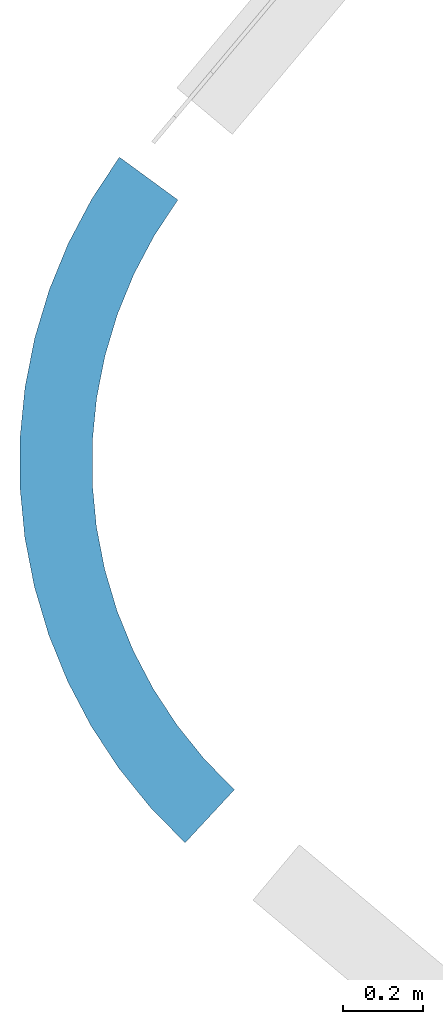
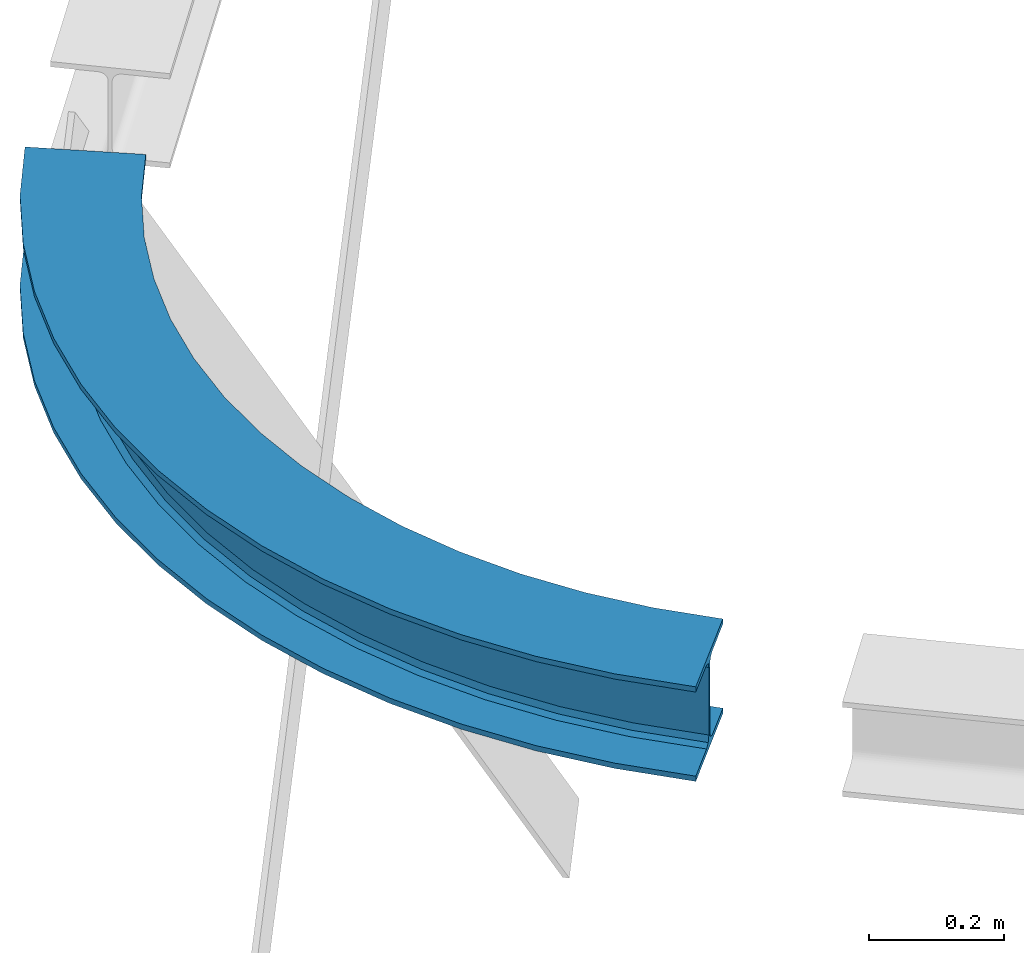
# One storey, part 11 of 11: 1 beam.
"""IFC2X3 building model written with IfcOpenShell, lengths in millimetres."""

from ifc_helpers import new_model, entity, si_unit, converted_unit, derived_unit, direction, frame, origin, place, context, subcontext, project, spatial, faceted_brep, material, type_object, element, save


model = new_model("IFC2X3")

# Units and contexts
model_context = context("Model", 3, precision=0.01, world=origin(), true_north=direction((6.123031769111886e-17, 1.0)))
body_context = subcontext(model_context, "Body", "Model", "MODEL_VIEW")
ifc_project = project(units=[si_unit("LENGTHUNIT", "METRE", prefix="MILLI"), si_unit("AREAUNIT", "SQUARE_METRE"), si_unit("VOLUMEUNIT", "CUBIC_METRE"), derived_unit("MASSDENSITYUNIT", [(si_unit("MASSUNIT", "GRAM", prefix="KILO"), 1), (si_unit("LENGTHUNIT", "METRE"), -3)]), si_unit("MASSUNIT", "GRAM", prefix="KILO"), converted_unit("PLANEANGLEUNIT", "DEGREE", entity("IfcPlaneAngleMeasure", 0.017453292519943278), si_unit("PLANEANGLEUNIT", "RADIAN"), dimensions=[0, 0, 0, 0, 0, 0, 0])], contexts=[model_context])

# Site, building, storey
site_placement = place(None, origin())
site = spatial("IfcSite", under=ifc_project, at=site_placement, Name="Default", CompositionType="ELEMENT")
building_placement = place(site_placement, origin())
building = spatial("IfcBuilding", under=site, at=building_placement, Name="AT constructie", CompositionType="ELEMENT")
storey_placement = place(building_placement, frame((0.0, 0.0, 7728.0)))
storey = spatial("IfcBuildingStorey", under=building, at=storey_placement, Name="02 tweede verdieping", CompositionType="ELEMENT", Elevation=7728.0)

# Beam
ifc_material = material(Name="h2_staal_S355")
beam_type = type_object("IfcBeamType", Name="balk HE_gen_HEA180", PredefinedType="NOTDEFINED")
beam_placement = place(storey_placement, frame((7904.880836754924, 36284.616264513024, 0.0)))
element("IfcBeam", 1, at=beam_placement, inside=storey, type_object=beam_type, material=ifc_material, Name="NLRS_28_SF_LIB_balk HEA_gen_AT:balk HE_gen_HEA180", ObjectType="NLRS_28_SF_LIB_balk HEA_gen_AT:balk HE_gen_HEA180", context=body_context, shape_type="Brep", body=[
    faceted_brep([(-1108.1739774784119, 656.2401463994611, 0.0), (-953.2935853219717, 564.522840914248, 0.0), (-894.1763623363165, 654.1432035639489, 0.0), (-1039.4520547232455, 760.4210149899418, 0.0), (-953.2935853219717, 564.522840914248, -9.500000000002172), (-894.1763623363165, 654.1432035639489, -9.500000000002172), (-1015.2457421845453, 601.209763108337, -9.499999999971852), (-952.2866392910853, 696.6543281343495, -9.499999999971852), (-1024.3721568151, 606.6142571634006, -13.893398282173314), (-960.8470915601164, 702.9168082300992, -13.893398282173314), (-1028.1524415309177, 608.852871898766, -24.50000000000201), (-964.3929469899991, 705.5108124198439, -24.50000000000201), (-1028.1524415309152, 608.8528718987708, -146.49999999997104), (-964.392946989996, 705.5108124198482, -146.49999999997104), (-1024.3721568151, 606.6142571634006, -157.1066017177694), (-960.8470915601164, 702.9168082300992, -157.1066017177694), (-1015.2457421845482, 601.2097631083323, -161.50000000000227), (-952.2866392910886, 696.6543281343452, -161.50000000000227), (-953.2935853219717, 564.522840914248, -161.50000000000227), (-894.1763623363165, 654.1432035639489, -161.50000000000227), (-953.2935853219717, 564.522840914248, -171.0), (-894.1763623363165, 654.1432035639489, -171.0), (-1108.1739774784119, 656.2401463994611, -171.0), (-1039.4520547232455, 760.4210149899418, -171.0), (-1108.1739774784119, 656.2401463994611, -161.50000000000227), (-1039.4520547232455, 760.4210149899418, -161.50000000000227), (-1046.2218206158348, 619.5532242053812, -161.49999999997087), (-981.3417777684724, 717.9098904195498, -161.49999999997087), (-1037.0954059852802, 614.1487301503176, -157.1066017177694), (-972.7813254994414, 711.6474103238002, -157.1066017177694), (-1033.3151212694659, 611.910115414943, -146.50000000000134), (-969.2354700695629, 709.0534061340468, -146.50000000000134), (-1033.315121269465, 611.9101154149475, -24.49999999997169), (-969.2354700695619, 709.0534061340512, -24.49999999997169), (-1037.0954059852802, 614.1487301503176, -13.893398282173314), (-972.7813254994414, 711.6474103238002, -13.893398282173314), (-1046.2218206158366, 619.5532242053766, -9.500000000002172), (-981.3417777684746, 717.9098904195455, -9.500000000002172), (-1108.1739774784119, 656.2401463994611, -9.500000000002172), (-1039.4520547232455, 760.4210149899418, -9.500000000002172), (-1166.4893739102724, 545.8967252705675, 0.0), (-1003.4587168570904, 469.60121517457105, 0.0), (-1003.4587168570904, 469.60121517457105, -9.500000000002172), (-1068.6709796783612, 500.1194192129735, -9.499999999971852), (-1078.2776532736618, 504.61517525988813, -13.893398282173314), (-1082.2568677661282, 506.47737838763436, -24.50000000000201), (-1082.2568677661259, 506.4773783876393, -146.49999999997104), (-1078.2776532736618, 504.61517525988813, -157.1066017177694), (-1068.6709796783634, 500.1194192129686, -161.50000000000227), (-1003.4587168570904, 469.60121517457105, -161.50000000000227), (-1003.4587168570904, 469.60121517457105, -171.0), (-1166.4893739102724, 545.8967252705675, -171.0), (-1166.4893739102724, 545.8967252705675, -161.50000000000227), (-1101.277111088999, 515.3785212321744, -161.49999999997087), (-1091.6704374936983, 510.88276518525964, -157.1066017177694), (-1087.6912230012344, 509.0205620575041, -146.50000000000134), (-1087.6912230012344, 509.0205620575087, -24.49999999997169), (-1091.6704374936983, 510.88276518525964, -13.893398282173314), (-1101.2771110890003, 515.3785212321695, -9.500000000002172), (-1166.4893739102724, 545.8967252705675, -9.500000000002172), (-1213.850621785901, 430.42695326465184, 0.0), (-1044.200671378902, 370.2697065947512, 0.0), (-1044.200671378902, 370.2697065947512, -9.500000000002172), (-1112.0606515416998, 394.33260526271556, -9.499999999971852), (-1122.0573707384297, 397.87740501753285, -13.893398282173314), (-1126.1981474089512, 399.34570915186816, -24.50000000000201), (-1126.1981474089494, 399.34570915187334, -146.49999999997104), (-1122.0573707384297, 397.87740501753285, -157.1066017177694), (-1112.0606515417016, 394.33260526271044, -161.50000000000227), (-1044.200671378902, 370.2697065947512, -161.50000000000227), (-1044.200671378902, 370.2697065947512, -171.0), (-1213.850621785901, 430.42695326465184, -171.0), (-1213.850621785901, 430.42695326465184, -161.50000000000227), (-1145.9906416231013, 406.36405459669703, -161.49999999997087), (-1135.9939224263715, 402.8192548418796, -157.1066017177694), (-1131.8531457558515, 401.35095070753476, -146.50000000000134), (-1131.853145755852, 401.3509507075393, -24.49999999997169), (-1135.9939224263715, 402.8192548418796, -13.893398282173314), (-1145.9906416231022, 406.36405459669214, -9.500000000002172), (-1213.850621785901, 430.42695326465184, -9.500000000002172), (-1249.8129659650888, 310.9151720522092, 0.0), (-1075.1368535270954, 267.4611072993, 0.0), (-1075.1368535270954, 267.4611072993, -9.500000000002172), (-1145.0072985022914, 284.84273320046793, -9.499999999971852), (-1155.300187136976, 287.4032885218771, -13.893398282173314), (-1159.5636412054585, 288.4639052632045, -24.50000000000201), (-1159.563641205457, 288.4639052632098, -146.49999999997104), (-1155.300187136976, 287.4032885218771, -157.1066017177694), (-1145.0072985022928, 284.8427332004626, -161.50000000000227), (-1075.1368535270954, 267.4611072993, -161.50000000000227), (-1075.1368535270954, 267.4611072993, -171.0), (-1249.8129659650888, 310.9151720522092, -171.0), (-1249.8129659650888, 310.9151720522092, -161.50000000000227), (-1179.942520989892, 293.5335461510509, -161.49999999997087), (-1169.6496323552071, 290.9729908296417, -157.1066017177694), (-1165.3861782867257, 289.9123740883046, -146.50000000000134), (-1165.3861782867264, 289.91237408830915, -24.49999999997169), (-1169.6496323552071, 290.9729908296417, -13.893398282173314), (-1179.9425209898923, 293.533546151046, -9.500000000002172), (-1249.8129659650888, 310.9151720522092, -9.500000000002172), (-1274.0386949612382, 188.4836805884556, 0.0), (-1095.9767509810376, 162.14086171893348, 0.0), (-1095.9767509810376, 162.14086171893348, -9.500000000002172), (-1167.201528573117, 172.67798926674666, -9.499999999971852), (-1177.693929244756, 174.2302547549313, -13.893398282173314), (-1182.0400239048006, 174.87322417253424, -24.50000000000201), (-1182.0400239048, 174.87322417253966, -146.49999999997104), (-1177.693929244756, 174.2302547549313, -157.1066017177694), (-1167.201528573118, 172.67798926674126, -161.50000000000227), (-1095.9767509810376, 162.14086171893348, -161.50000000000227), (-1095.9767509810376, 162.14086171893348, -171.0), (-1274.0386949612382, 188.4836805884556, -171.0), (-1274.0386949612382, 188.4836805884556, -161.50000000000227), (-1202.8139173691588, 177.9465530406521, -161.49999999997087), (-1192.32151669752, 176.39428755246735, -157.1066017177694), (-1187.975422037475, 175.75131813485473, -146.50000000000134), (-1187.9754220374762, 175.75131813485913, -24.49999999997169), (-1192.32151669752, 176.39428755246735, -13.893398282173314), (-1202.813917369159, 177.94655304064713, -9.500000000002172), (-1274.0386949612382, 188.4836805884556, -9.500000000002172), (-1286.3003122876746, 64.28219594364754, 0.0), (-1106.5246625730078, 55.298000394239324, 0.0), (-1106.5246625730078, 55.298000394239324, -9.500000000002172), (-1178.434922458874, 58.891678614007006, -9.499999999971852), (-1189.0283042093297, 59.42107741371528, -13.893398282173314), (-1193.416226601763, 59.64036157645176, -24.50000000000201), (-1193.4162266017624, 59.640361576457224, -146.49999999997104), (-1189.0283042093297, 59.42107741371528, -157.1066017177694), (-1178.4349224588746, 58.891678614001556, -161.50000000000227), (-1106.5246625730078, 55.298000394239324, -161.50000000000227), (-1106.5246625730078, 55.298000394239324, -171.0), (-1286.3003122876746, 64.28219594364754, -171.0), (-1286.3003122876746, 64.28219594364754, -161.50000000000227), (-1214.3900524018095, 60.688517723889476, -161.49999999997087), (-1203.796670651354, 60.15911892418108, -157.1066017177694), (-1199.4087482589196, 59.93983476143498, -146.50000000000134), (-1199.4087482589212, 59.939834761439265, -24.49999999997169), (-1203.796670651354, 60.15911892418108, -13.893398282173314), (-1214.3900524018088, 60.68851772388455, -9.500000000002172), (-1286.3003122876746, 64.28219594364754, -9.500000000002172), (-1286.4826728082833, -60.522943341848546, 0.0), (-1106.68153605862, -52.064147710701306, 0.0), (-1106.68153605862, -52.064147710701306, -9.500000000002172), (-1178.6019907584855, -55.44766596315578, -9.499999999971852), (-1189.196874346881, -55.946105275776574, -13.893398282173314), (-1193.5854188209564, -56.15256559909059, -24.50000000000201), (-1193.5854188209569, -56.152565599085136, -146.49999999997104), (-1189.196874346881, -55.946105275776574, -157.1066017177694), (-1178.601990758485, -55.44766596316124, -161.50000000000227), (-1106.68153605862, -52.064147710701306, -161.50000000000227), (-1106.68153605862, -52.064147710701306, -171.0), (-1286.4826728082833, -60.522943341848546, -171.0), (-1286.4826728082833, -60.522943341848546, -161.50000000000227), (-1214.5622181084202, -57.1394250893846, -161.49999999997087), (-1203.9673345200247, -56.64098577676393, -157.1066017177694), (-1199.5787900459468, -56.434525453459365, -146.50000000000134), (-1199.5787900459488, -56.43452545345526, -24.49999999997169), (-1203.9673345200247, -56.64098577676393, -13.893398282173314), (-1214.562218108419, -57.13942508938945, -9.500000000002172), (-1286.4826728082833, -60.522943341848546, -9.500000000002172), (-1274.5840640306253, -184.75972998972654, 0.0), (-1096.4458982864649, -158.93737716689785, 0.0), (-1096.4458982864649, -158.93737716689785, -9.500000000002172), (-1167.7011645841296, -169.26631829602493, -9.499999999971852), (-1178.1980566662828, -170.78791502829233, -13.893398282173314), (-1182.5460117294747, -171.4181810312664, -24.50000000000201), (-1182.5460117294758, -171.418181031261, -146.49999999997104), (-1178.1980566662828, -170.78791502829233, -157.1066017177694), (-1167.7011645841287, -169.26631829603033, -161.50000000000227), (-1096.4458982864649, -158.93737716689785, -161.50000000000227), (-1096.4458982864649, -158.93737716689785, -171.0), (-1274.5840640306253, -184.75972998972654, -171.0), (-1274.5840640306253, -184.75972998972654, -161.50000000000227), (-1203.328797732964, -174.4307888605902, -161.49999999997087), (-1192.8319056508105, -172.90919212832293, -157.1066017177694), (-1188.4839505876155, -172.27892612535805, -146.50000000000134), (-1188.4839505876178, -172.2789261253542, -24.49999999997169), (-1192.8319056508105, -172.90919212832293, -13.893398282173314), (-1203.3287977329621, -174.43078886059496, -9.500000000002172), (-1274.5840640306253, -184.75972998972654, -9.500000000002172), (-1250.7162221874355, -307.2614939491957, 0.0), (-1075.913869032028, -264.318073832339, 0.0), (-1075.913869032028, -264.318073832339, -9.500000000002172), (-1145.834810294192, -281.4954418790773, -9.499999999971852), (-1156.1351377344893, -284.0259071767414, -13.893398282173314), (-1160.4016730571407, -285.07406022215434, -24.50000000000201), (-1160.401673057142, -285.07406022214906, -146.49999999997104), (-1156.1351377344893, -284.0259071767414, -157.1066017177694), (-1145.8348102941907, -281.4954418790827, -161.50000000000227), (-1075.913869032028, -264.318073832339, -161.50000000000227), (-1075.913869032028, -264.318073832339, -171.0), (-1250.7162221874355, -307.2614939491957, -171.0), (-1250.7162221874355, -307.2614939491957, -161.50000000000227), (-1180.7952809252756, -290.0841259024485, -161.49999999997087), (-1170.4949534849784, -287.55366060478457, -157.1066017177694), (-1166.228418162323, -286.5055075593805, -146.50000000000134), (-1166.2284181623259, -286.5055075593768, -24.49999999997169), (-1170.4949534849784, -287.55366060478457, -13.893398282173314), (-1180.7952809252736, -290.084125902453, -9.500000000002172), (-1250.7162221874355, -307.2614939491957, -9.500000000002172), (-1215.1032829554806, -426.87785824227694, 0.0), (-1045.2782583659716, -367.21663948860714, 0.0), (-1045.2782583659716, -367.21663948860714, -9.500000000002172), (-1113.2082682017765, -391.08112699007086, -9.499999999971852), (-1123.2153037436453, -394.5966980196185, -13.893398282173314), (-1127.360353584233, -396.0528952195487, -24.50000000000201), (-1127.3603535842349, -396.0528952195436, -146.49999999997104), (-1123.2153037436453, -394.5966980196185, -157.1066017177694), (-1113.2082682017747, -391.081126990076, -161.50000000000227), (-1045.2782583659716, -367.21663948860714, -161.50000000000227), (-1045.2782583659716, -367.21663948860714, -171.0), (-1215.1032829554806, -426.87785824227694, -171.0), (-1215.1032829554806, -426.87785824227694, -161.50000000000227), (-1147.1732731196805, -403.01337074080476, -161.49999999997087), (-1137.1662375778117, -399.4977997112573, -157.1066017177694), (-1133.021187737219, -398.0416025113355, -146.50000000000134), (-1133.0211877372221, -398.0416025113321, -24.49999999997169), (-1137.1662375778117, -399.4977997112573, -13.893398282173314), (-1147.173273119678, -403.0133707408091, -9.500000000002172), (-1215.1032829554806, -426.87785824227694, -9.500000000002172), (-1168.0796766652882, -542.4855418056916, 0.0), (-1004.8267560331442, -466.6667848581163, 0.0), (-1004.8267560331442, -466.6667848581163, -9.500000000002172), (-1070.1279242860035, -496.99428763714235, -9.499999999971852), (-1079.747694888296, -501.4619507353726, -13.893398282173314), (-1083.7323343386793, -503.3125173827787, -24.50000000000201), (-1083.7323343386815, -503.31251738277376, -146.49999999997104), (-1079.747694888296, -501.4619507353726, -157.1066017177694), (-1070.1279242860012, -496.9942876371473, -161.50000000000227), (-1004.8267560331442, -466.6667848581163, -161.50000000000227), (-1004.8267560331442, -466.6667848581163, -171.0), (-1168.0796766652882, -542.4855418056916, -171.0), (-1168.0796766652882, -542.4855418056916, -161.50000000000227), (-1102.7785084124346, -512.1580390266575, -161.49999999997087), (-1093.158737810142, -507.6903759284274, -157.1066017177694), (-1089.174098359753, -505.8398092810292, -146.50000000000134), (-1089.1740983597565, -505.8398092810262, -24.49999999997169), (-1093.158737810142, -507.6903759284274, -13.893398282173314), (-1102.7785084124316, -512.1580390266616, -9.500000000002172), (-1168.0796766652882, -542.4855418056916, -9.500000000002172), (-1110.0869877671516, -652.9989078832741, 0.0), (-954.9392298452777, -561.7346037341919, 0.0), (-954.9392298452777, -561.7346037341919, -9.500000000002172), (-1016.9983330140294, -598.2403253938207, -9.499999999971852), (-1026.1405023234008, -603.6181260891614, -13.893398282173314), (-1029.9273128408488, -605.8456840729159, -24.50000000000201), (-1029.9273128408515, -605.8456840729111, -146.49999999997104), (-1026.1405023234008, -603.6181260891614, -157.1066017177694), (-1016.9983330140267, -598.2403253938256, -161.50000000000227), (-954.9392298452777, -561.7346037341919, -161.50000000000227), (-954.9392298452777, -561.7346037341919, -171.0), (-1110.0869877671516, -652.9989078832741, -171.0), (-1110.0869877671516, -652.9989078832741, -161.50000000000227), (-1048.0278845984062, -616.4931862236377, -161.49999999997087), (-1038.8857152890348, -611.1153855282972, -157.1066017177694), (-1035.0989047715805, -608.8878275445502, -146.50000000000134), (-1035.0989047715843, -608.8878275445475, -24.49999999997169), (-1038.8857152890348, -611.1153855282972, -13.893398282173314), (-1048.027884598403, -616.4931862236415, -9.500000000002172), (-1110.0869877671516, -652.9989078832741, -9.500000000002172), (-1041.6698080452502, -757.3801589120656, 0.0), (-896.0841584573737, -651.5273430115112, 0.0), (-896.0841584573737, -651.5273430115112, -9.500000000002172), (-954.3184182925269, -693.8684693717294, -9.499999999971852), (-962.8971349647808, -700.1059063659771, -13.893398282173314), (-966.4505557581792, -702.6895373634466, -24.50000000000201), (-966.4505557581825, -702.6895373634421, -146.49999999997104), (-962.8971349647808, -700.1059063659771, -157.1066017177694), (-954.3184182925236, -693.8684693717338, -161.50000000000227), (-896.0841584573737, -651.5273430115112, -161.50000000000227), (-896.0841584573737, -651.5273430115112, -171.0), (-1041.6698080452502, -757.3801589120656, -171.0), (-1041.6698080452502, -757.3801589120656, -161.50000000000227), (-983.4355482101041, -715.0390325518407, -161.49999999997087), (-974.8568315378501, -708.801595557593, -157.1066017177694), (-971.3034107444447, -706.2179645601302, -146.50000000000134), (-971.3034107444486, -706.2179645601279, -24.49999999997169), (-974.8568315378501, -708.801595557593, -13.893398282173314), (-983.4355482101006, -715.0390325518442, -9.500000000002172), (-1041.6698080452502, -757.3801589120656, -9.500000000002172), (-963.4706225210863, -854.6490821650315, 0.0), (-828.8142320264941, -735.2017862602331, 0.0), (-828.8142320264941, -735.2017862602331, -9.500000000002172), (-882.6767882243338, -782.980704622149, -9.499999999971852), (-890.6114921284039, -790.0192040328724, -13.893398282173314), (-893.8981540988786, -792.9346459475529, -24.50000000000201), (-893.8981540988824, -792.9346459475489, -146.49999999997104), (-890.6114921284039, -790.0192040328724, -157.1066017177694), (-882.6767882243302, -782.9807046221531, -161.50000000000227), (-828.8142320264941, -735.2017862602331, -161.50000000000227), (-828.8142320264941, -735.2017862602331, -171.0), (-963.4706225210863, -854.6490821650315, -171.0), (-963.4706225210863, -854.6490821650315, -161.50000000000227), (-909.6080663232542, -806.8701638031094, -161.49999999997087), (-901.673362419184, -799.8316643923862, -157.1066017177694), (-898.3867004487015, -796.9162224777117, -146.50000000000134), (-898.3867004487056, -796.9162224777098, -24.49999999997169), (-901.673362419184, -799.8316643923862, -13.893398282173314), (-909.6080663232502, -806.8701638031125, -9.500000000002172), (-963.4706225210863, -854.6490821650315, -9.500000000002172), (-876.2237760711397, -943.8922546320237, 0.0), (-753.7611620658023, -811.9721721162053, 0.0), (-753.7611620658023, -811.9721721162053, -9.500000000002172), (-802.7462076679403, -864.7402051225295, -9.499999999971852), (-809.9623864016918, -872.5136705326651, -13.893398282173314), (-812.9514255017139, -875.7335453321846, -24.50000000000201), (-812.9514255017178, -875.7335453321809, -146.49999999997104), (-809.9623864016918, -872.5136705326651, -157.1066017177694), (-802.7462076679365, -864.7402051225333, -161.50000000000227), (-753.7611620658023, -811.9721721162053, -161.50000000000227), (-753.7611620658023, -811.9721721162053, -171.0), (-876.2237760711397, -943.8922546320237, -171.0), (-876.2237760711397, -943.8922546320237, -161.50000000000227), (-827.2387304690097, -891.1242216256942, -161.49999999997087), (-820.0225517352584, -883.3507562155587, -157.1066017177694), (-817.0335126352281, -880.1308814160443, -146.50000000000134), (-817.0335126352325, -880.1308814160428, -24.49999999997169), (-820.0225517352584, -883.3507562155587, -13.893398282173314), (-827.2387304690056, -891.1242216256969, -9.500000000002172), (-876.2237760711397, -943.8922546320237, -9.500000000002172)], [[[0, 1, 2, 3]], [[1, 4, 5, 2]], [[4, 6, 7, 5]], [[6, 8, 9, 7]], [[8, 10, 11, 9]], [[10, 12, 13, 11]], [[12, 14, 15, 13]], [[14, 16, 17, 15]], [[16, 18, 19, 17]], [[18, 20, 21, 19]], [[20, 22, 23, 21]], [[22, 24, 25, 23]], [[24, 26, 27, 25]], [[26, 28, 29, 27]], [[28, 30, 31, 29]], [[30, 32, 33, 31]], [[32, 34, 35, 33]], [[34, 36, 37, 35]], [[36, 38, 39, 37]], [[38, 0, 3, 39]], [[40, 41, 1, 0]], [[41, 42, 4, 1]], [[42, 43, 6, 4]], [[43, 44, 8, 6]], [[44, 45, 10, 8]], [[45, 46, 12, 10]], [[46, 47, 14, 12]], [[47, 48, 16, 14]], [[48, 49, 18, 16]], [[49, 50, 20, 18]], [[50, 51, 22, 20]], [[51, 52, 24, 22]], [[52, 53, 26, 24]], [[53, 54, 28, 26]], [[54, 55, 30, 28]], [[55, 56, 32, 30]], [[56, 57, 34, 32]], [[57, 58, 36, 34]], [[58, 59, 38, 36]], [[59, 40, 0, 38]], [[60, 61, 41, 40]], [[61, 62, 42, 41]], [[62, 63, 43, 42]], [[63, 64, 44, 43]], [[64, 65, 45, 44]], [[65, 66, 46, 45]], [[66, 67, 47, 46]], [[67, 68, 48, 47]], [[68, 69, 49, 48]], [[69, 70, 50, 49]], [[70, 71, 51, 50]], [[71, 72, 52, 51]], [[72, 73, 53, 52]], [[73, 74, 54, 53]], [[74, 75, 55, 54]], [[75, 76, 56, 55]], [[76, 77, 57, 56]], [[77, 78, 58, 57]], [[78, 79, 59, 58]], [[79, 60, 40, 59]], [[80, 81, 61, 60]], [[81, 82, 62, 61]], [[82, 83, 63, 62]], [[83, 84, 64, 63]], [[84, 85, 65, 64]], [[85, 86, 66, 65]], [[86, 87, 67, 66]], [[87, 88, 68, 67]], [[88, 89, 69, 68]], [[89, 90, 70, 69]], [[90, 91, 71, 70]], [[91, 92, 72, 71]], [[92, 93, 73, 72]], [[93, 94, 74, 73]], [[94, 95, 75, 74]], [[95, 96, 76, 75]], [[96, 97, 77, 76]], [[97, 98, 78, 77]], [[98, 99, 79, 78]], [[99, 80, 60, 79]], [[100, 101, 81, 80]], [[101, 102, 82, 81]], [[102, 103, 83, 82]], [[103, 104, 84, 83]], [[104, 105, 85, 84]], [[105, 106, 86, 85]], [[106, 107, 87, 86]], [[107, 108, 88, 87]], [[108, 109, 89, 88]], [[109, 110, 90, 89]], [[110, 111, 91, 90]], [[111, 112, 92, 91]], [[112, 113, 93, 92]], [[113, 114, 94, 93]], [[114, 115, 95, 94]], [[115, 116, 96, 95]], [[116, 117, 97, 96]], [[117, 118, 98, 97]], [[118, 119, 99, 98]], [[119, 100, 80, 99]], [[120, 121, 101, 100]], [[121, 122, 102, 101]], [[122, 123, 103, 102]], [[123, 124, 104, 103]], [[124, 125, 105, 104]], [[125, 126, 106, 105]], [[126, 127, 107, 106]], [[127, 128, 108, 107]], [[128, 129, 109, 108]], [[129, 130, 110, 109]], [[130, 131, 111, 110]], [[131, 132, 112, 111]], [[132, 133, 113, 112]], [[133, 134, 114, 113]], [[134, 135, 115, 114]], [[135, 136, 116, 115]], [[136, 137, 117, 116]], [[137, 138, 118, 117]], [[138, 139, 119, 118]], [[139, 120, 100, 119]], [[140, 141, 121, 120]], [[141, 142, 122, 121]], [[142, 143, 123, 122]], [[143, 144, 124, 123]], [[144, 145, 125, 124]], [[145, 146, 126, 125]], [[146, 147, 127, 126]], [[147, 148, 128, 127]], [[148, 149, 129, 128]], [[149, 150, 130, 129]], [[150, 151, 131, 130]], [[151, 152, 132, 131]], [[152, 153, 133, 132]], [[153, 154, 134, 133]], [[154, 155, 135, 134]], [[155, 156, 136, 135]], [[156, 157, 137, 136]], [[157, 158, 138, 137]], [[158, 159, 139, 138]], [[159, 140, 120, 139]], [[160, 161, 141, 140]], [[161, 162, 142, 141]], [[162, 163, 143, 142]], [[163, 164, 144, 143]], [[164, 165, 145, 144]], [[165, 166, 146, 145]], [[166, 167, 147, 146]], [[167, 168, 148, 147]], [[168, 169, 149, 148]], [[169, 170, 150, 149]], [[170, 171, 151, 150]], [[171, 172, 152, 151]], [[172, 173, 153, 152]], [[173, 174, 154, 153]], [[174, 175, 155, 154]], [[175, 176, 156, 155]], [[176, 177, 157, 156]], [[177, 178, 158, 157]], [[178, 179, 159, 158]], [[179, 160, 140, 159]], [[180, 181, 161, 160]], [[181, 182, 162, 161]], [[182, 183, 163, 162]], [[183, 184, 164, 163]], [[184, 185, 165, 164]], [[185, 186, 166, 165]], [[186, 187, 167, 166]], [[187, 188, 168, 167]], [[188, 189, 169, 168]], [[189, 190, 170, 169]], [[190, 191, 171, 170]], [[191, 192, 172, 171]], [[192, 193, 173, 172]], [[193, 194, 174, 173]], [[194, 195, 175, 174]], [[195, 196, 176, 175]], [[196, 197, 177, 176]], [[197, 198, 178, 177]], [[198, 199, 179, 178]], [[199, 180, 160, 179]], [[200, 201, 181, 180]], [[201, 202, 182, 181]], [[202, 203, 183, 182]], [[203, 204, 184, 183]], [[204, 205, 185, 184]], [[205, 206, 186, 185]], [[206, 207, 187, 186]], [[207, 208, 188, 187]], [[208, 209, 189, 188]], [[209, 210, 190, 189]], [[210, 211, 191, 190]], [[211, 212, 192, 191]], [[212, 213, 193, 192]], [[213, 214, 194, 193]], [[214, 215, 195, 194]], [[215, 216, 196, 195]], [[216, 217, 197, 196]], [[217, 218, 198, 197]], [[218, 219, 199, 198]], [[219, 200, 180, 199]], [[220, 221, 201, 200]], [[221, 222, 202, 201]], [[222, 223, 203, 202]], [[223, 224, 204, 203]], [[224, 225, 205, 204]], [[225, 226, 206, 205]], [[226, 227, 207, 206]], [[227, 228, 208, 207]], [[228, 229, 209, 208]], [[229, 230, 210, 209]], [[230, 231, 211, 210]], [[231, 232, 212, 211]], [[232, 233, 213, 212]], [[233, 234, 214, 213]], [[234, 235, 215, 214]], [[235, 236, 216, 215]], [[236, 237, 217, 216]], [[237, 238, 218, 217]], [[238, 239, 219, 218]], [[239, 220, 200, 219]], [[240, 241, 221, 220]], [[241, 242, 222, 221]], [[242, 243, 223, 222]], [[243, 244, 224, 223]], [[244, 245, 225, 224]], [[245, 246, 226, 225]], [[246, 247, 227, 226]], [[247, 248, 228, 227]], [[248, 249, 229, 228]], [[249, 250, 230, 229]], [[250, 251, 231, 230]], [[251, 252, 232, 231]], [[252, 253, 233, 232]], [[253, 254, 234, 233]], [[254, 255, 235, 234]], [[255, 256, 236, 235]], [[256, 257, 237, 236]], [[257, 258, 238, 237]], [[258, 259, 239, 238]], [[259, 240, 220, 239]], [[260, 261, 241, 240]], [[261, 262, 242, 241]], [[262, 263, 243, 242]], [[263, 264, 244, 243]], [[264, 265, 245, 244]], [[265, 266, 246, 245]], [[266, 267, 247, 246]], [[267, 268, 248, 247]], [[268, 269, 249, 248]], [[269, 270, 250, 249]], [[270, 271, 251, 250]], [[271, 272, 252, 251]], [[272, 273, 253, 252]], [[273, 274, 254, 253]], [[274, 275, 255, 254]], [[275, 276, 256, 255]], [[276, 277, 257, 256]], [[277, 278, 258, 257]], [[278, 279, 259, 258]], [[279, 260, 240, 259]], [[280, 281, 261, 260]], [[281, 282, 262, 261]], [[282, 283, 263, 262]], [[283, 284, 264, 263]], [[284, 285, 265, 264]], [[285, 286, 266, 265]], [[286, 287, 267, 266]], [[287, 288, 268, 267]], [[288, 289, 269, 268]], [[289, 290, 270, 269]], [[290, 291, 271, 270]], [[291, 292, 272, 271]], [[292, 293, 273, 272]], [[293, 294, 274, 273]], [[294, 295, 275, 274]], [[295, 296, 276, 275]], [[296, 297, 277, 276]], [[297, 298, 278, 277]], [[298, 299, 279, 278]], [[299, 280, 260, 279]], [[300, 301, 281, 280]], [[301, 302, 282, 281]], [[302, 303, 283, 282]], [[303, 304, 284, 283]], [[304, 305, 285, 284]], [[305, 306, 286, 285]], [[306, 307, 287, 286]], [[307, 308, 288, 287]], [[308, 309, 289, 288]], [[309, 310, 290, 289]], [[310, 311, 291, 290]], [[311, 312, 292, 291]], [[312, 313, 293, 292]], [[313, 314, 294, 293]], [[314, 315, 295, 294]], [[315, 316, 296, 295]], [[316, 317, 297, 296]], [[317, 318, 298, 297]], [[318, 319, 299, 298]], [[319, 300, 280, 299]], [[3, 2, 5, 7, 9, 11, 13, 15, 17, 19, 21, 23, 25, 27, 29, 31, 33, 35, 37, 39]], [[319, 318, 317, 316, 315, 314, 313, 312, 311, 310, 309, 308, 307, 306, 305, 304, 303, 302, 301, 300]]]),
])

save(model, "model.ifc")
